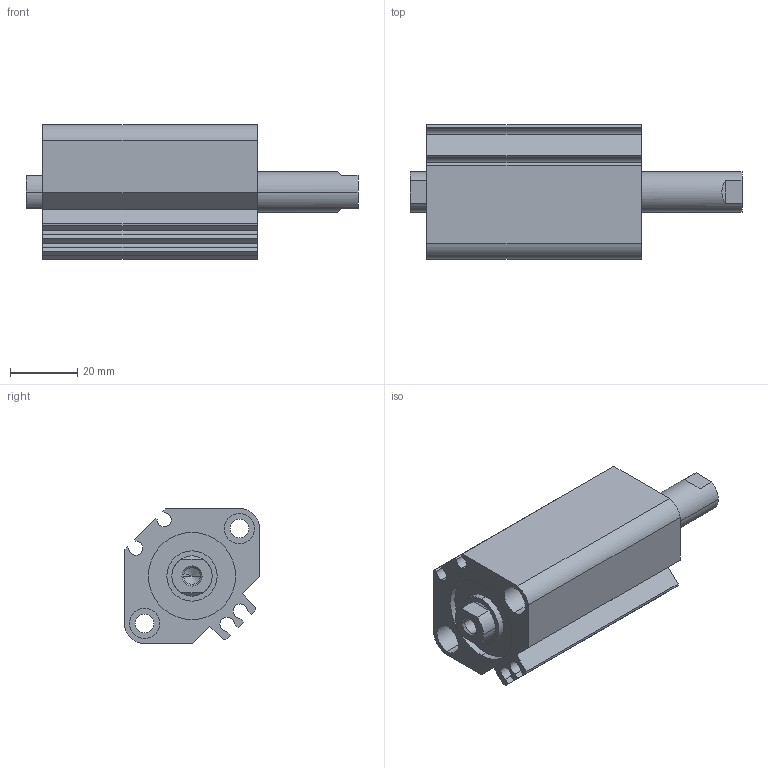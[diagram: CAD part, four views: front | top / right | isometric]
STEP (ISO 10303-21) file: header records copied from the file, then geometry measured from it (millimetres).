
FILE_DESCRIPTION (( 'STEP AP203' ), '1' );
FILE_NAME ('CCMB25-25F-P.STEP', '2020-08-05T11:09:45', ( '' ), ( '' ), 'SwSTEP 2.0', 'SolidWorks 2019', '' );
FILE_SCHEMA (( 'CONFIG_CONTROL_DESIGN' ));
Length unit declared in the file: millimetre
Products named in the file (1): CCMB25-25F-P
Bounding box: 99 x 40 x 40 mm (x, y, z)
Volume: 74053 mm3; surface area: 28145.3 mm2
Topology: 2 solids, 2 shells, 114 faces, 276 edges, 178 vertices
Faces by surface type: cylinder 52, plane 50, cone 12
Entity records: 3419 total; most frequent: DIRECTION 614, CARTESIAN_POINT 577, ORIENTED_EDGE 544, EDGE_CURVE 272, AXIS2_PLACEMENT_3D 231, VERTEX_POINT 178, LINE 152, VECTOR 152
